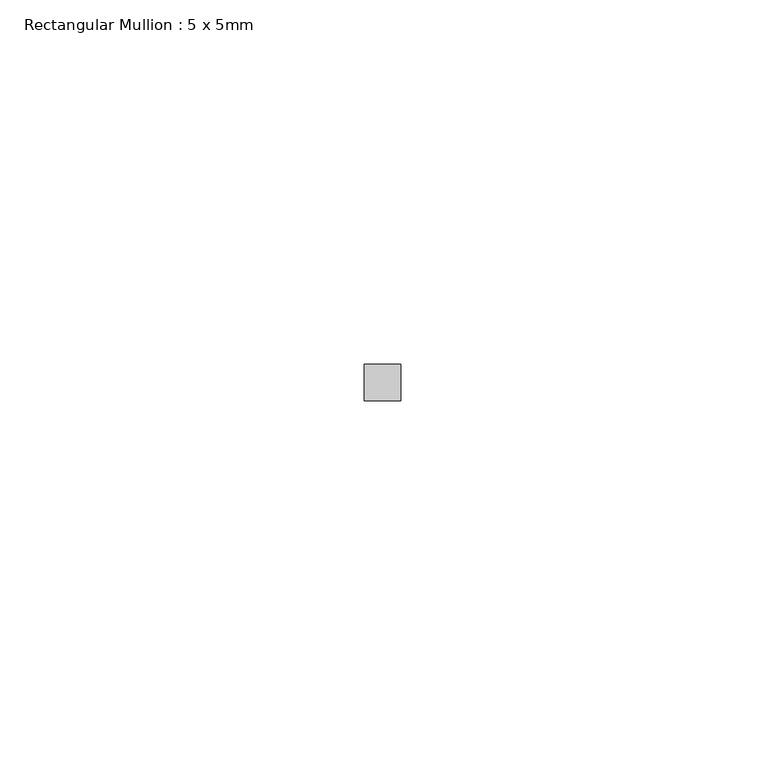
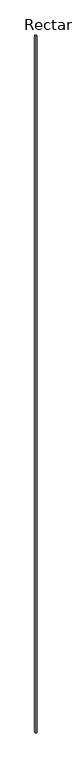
"""IFC4 building model written with IfcOpenShell, lengths in millimetres: member geometry, Rectangular Mullion : 5 x 5mm."""

import ifcopenshell
import ifcopenshell.guid

model = None  # the IFC model being written
_history = None  # IfcOwnerHistory: only IFC2X3 demands one
_inside = {}  # id of a spatial element -> (the spatial element, [elements in it])
_under = {}  # id of a project, library or spatial element -> (it, [spatial elements below it])
_declared = {}  # id of a project -> (the project, [libraries it declares])
_typed = {}  # id of a type object -> (the type object, [elements of that type])
_made_of = {}  # id of a material, layer set ... -> (it, [elements and type objects made of it])


def new_model(schema):
    """Start an empty IFC model of exactly this schema.

    Asked for "IFC4X3", IfcOpenShell would pick the latest addendum, in which some entities
    have other attributes; the version numbers below select the first issue.
    IFC2X3 requires an IfcOwnerHistory on every rooted entity: one is made here for all.
    """
    global model, _history
    if schema == "IFC4X3":
        model = ifcopenshell.file(schema_version=(4, 3, 0, 0))
    else:
        model = ifcopenshell.file(schema=schema)
    _inside.clear()
    _under.clear()
    _declared.clear()
    _typed.clear()
    _made_of.clear()
    _history = None
    if model.schema == "IFC2X3":
        org = make("IfcOrganization", Name="unknown")
        user = make(
            "IfcPersonAndOrganization",
            ThePerson=make("IfcPerson", FamilyName="unknown"),
            TheOrganization=org,
        )
        app = make(
            "IfcApplication",
            ApplicationDeveloper=org,
            Version="unknown",
            ApplicationFullName="unknown",
            ApplicationIdentifier="unknown",
        )
        _history = make(
            "IfcOwnerHistory",
            OwningUser=user,
            OwningApplication=app,
            ChangeAction="ADDED",
            CreationDate=0,
        )
    return model


def make(cls, **values):
    """One entity of the class cls with the attributes given. An attribute that is None is left unset."""
    return model.create_entity(
        cls, **{name: value for name, value in values.items() if value is not None}
    )


def rooted(cls, **values):
    """An entity with a GlobalId (a new one), such as an element, a storey or a relation."""
    return make(cls, GlobalId=ifcopenshell.guid.new(), OwnerHistory=_history, **values)


def si_unit(unit_type, name, prefix=None):
    """IfcSIUnit, for example si_unit("LENGTHUNIT", "METRE", prefix="MILLI")."""
    return make("IfcSIUnit", UnitType=unit_type, Prefix=prefix, Name=name)


def assignment(units):
    """IfcUnitAssignment: the units of a project."""
    return None if units is None else make("IfcUnitAssignment", Units=units)


def point(xyz):
    """IfcCartesianPoint."""
    return None if xyz is None else make("IfcCartesianPoint", Coordinates=xyz)


def direction(xyz):
    """IfcDirection."""
    return None if xyz is None else make("IfcDirection", DirectionRatios=xyz)


def frame(location, z_axis=None, x_axis=None):
    """IfcAxis2Placement3D, a coordinate frame: its origin and axes. An axis left out is left unset."""
    return make(
        "IfcAxis2Placement3D",
        Location=point(location),
        Axis=direction(z_axis),
        RefDirection=direction(x_axis),
    )


def origin():
    """The frame at (0, 0, 0) with its axes left unset."""
    return frame((0.0, 0.0, 0.0))


def place(relative_to, where):
    """IfcLocalPlacement: puts the frame where relative to a parent placement (None: the world)."""
    return make(
        "IfcLocalPlacement", PlacementRelTo=relative_to, RelativePlacement=where
    )


def context(
    kind, dimensions, precision=None, world=None, true_north=None, identifier=None
):
    """IfcGeometricRepresentationContext, for example the 3D "Model" context."""
    return make(
        "IfcGeometricRepresentationContext",
        ContextIdentifier=identifier,
        ContextType=kind,
        CoordinateSpaceDimension=dimensions,
        Precision=precision,
        WorldCoordinateSystem=world,
        TrueNorth=true_north,
    )


def project(units=None, contexts=None):
    """IfcProject with its units and contexts."""
    return rooted(
        "IfcProject",
        Name="project",
        RepresentationContexts=contexts,
        UnitsInContext=assignment(units),
    )


def spatial(cls, under=None, at=None, **own):
    """A site, building, storey or space (cls), placed at a placement, below another one or the project."""
    s = rooted(cls, ObjectPlacement=at, **own)
    if under is not None:
        _under.setdefault(under.id(), (under, []))[1].append(s)
    return s


def polyline(points):
    """IfcPolyline through the points."""
    return make("IfcPolyline", Points=[point(p) for p in points])


def outline(outer, holes=None, kind="AREA"):
    """IfcArbitraryClosedProfileDef: a profile drawn as a closed curve; with holes, ...WithVoids."""
    if holes is None:
        return make("IfcArbitraryClosedProfileDef", ProfileType=kind, OuterCurve=outer)
    return make(
        "IfcArbitraryProfileDefWithVoids",
        ProfileType=kind,
        OuterCurve=outer,
        InnerCurves=holes,
    )


def extrude(swept, where, along, depth):
    """IfcExtrudedAreaSolid: the profile swept, set in the frame where, extruded along a direction by depth."""
    return make(
        "IfcExtrudedAreaSolid",
        SweptArea=swept,
        Position=where,
        ExtrudedDirection=direction(along),
        Depth=depth,
    )


def shape(context_of_items, identifier, shape_type, items):
    """IfcShapeRepresentation: the items that make up one representation, for example the "Body"."""
    return make(
        "IfcShapeRepresentation",
        ContextOfItems=context_of_items,
        RepresentationIdentifier=identifier,
        RepresentationType=shape_type,
        Items=items,
    )


def source(mapping_origin, context_of_items, identifier, shape_type, items):
    """IfcRepresentationMap: a shape defined once, which mapped items show again and again."""
    return make(
        "IfcRepresentationMap",
        MappingOrigin=mapping_origin,
        MappedRepresentation=shape(context_of_items, identifier, shape_type, items),
    )


def transform(
    local_origin,
    x_axis=None,
    y_axis=None,
    z_axis=None,
    scale=None,
    scale2=None,
    scale3=None,
    uniform=True,
):
    """IfcCartesianTransformationOperator3D, or its non-uniform kind. x_axis, y_axis, z_axis: its Axis1, 2, 3."""
    if uniform:
        return make(
            "IfcCartesianTransformationOperator3D",
            Axis1=direction(x_axis),
            Axis2=direction(y_axis),
            LocalOrigin=point(local_origin),
            Scale=scale,
            Axis3=direction(z_axis),
        )
    return make(
        "IfcCartesianTransformationOperator3DnonUniform",
        Axis1=direction(x_axis),
        Axis2=direction(y_axis),
        LocalOrigin=point(local_origin),
        Scale=scale,
        Axis3=direction(z_axis),
        Scale2=scale2,
        Scale3=scale3,
    )


def mapped(mapping_source, mapping_target):
    """IfcMappedItem: shows the shape of a source again, moved by a transform."""
    return make(
        "IfcMappedItem", MappingSource=mapping_source, MappingTarget=mapping_target
    )


def made_of(thing, what):
    """Note that an element or type object is made of a material, layer set ...; save() writes the relation."""
    if what is not None:
        _made_of.setdefault(what.id(), (what, []))[1].append(thing)
    return thing


def element(
    cls,
    number,
    at=None,
    inside=None,
    cuts=None,
    type_object=None,
    material=None,
    context=None,
    identifier="Body",
    shape_type=None,
    held_by="IfcProductDefinitionShape",
    body=None,
    shapes=None,
    **own,
):
    """One element of the class cls, such as IfcWall. Its Tag is "e" and its number.

    at: its placement. inside: the storey or other place that contains it. cuts: it is an
    opening in that element (IfcRelVoidsElement). A single representation is given by context,
    identifier, shape_type and body (its items); several are given by shapes. held_by: the class
    of the entity that holds the representations. save() writes the other relations.
    """
    e = rooted(cls, Tag="e%d" % number, ObjectPlacement=at, **own)
    if body is not None:
        shapes = [shape(context, identifier, shape_type, body)]
    if shapes is not None:
        e.Representation = make(held_by, Representations=shapes)
    if inside is not None:
        _inside.setdefault(inside.id(), (inside, []))[1].append(e)
    if cuts is not None:
        rooted(
            "IfcRelVoidsElement", RelatingBuildingElement=cuts, RelatedOpeningElement=e
        )
    if type_object is not None:
        _typed.setdefault(type_object.id(), (type_object, []))[1].append(e)
    return made_of(e, material)


def aggregate(whole, parts):
    """IfcRelAggregates: a whole, such as a stair, and the parts it consists of."""
    return rooted("IfcRelAggregates", RelatingObject=whole, RelatedObjects=parts)


def save(model, path):
    """Write the relations noted so far, then the file.

    IfcRelAggregates (storeys below a building ...), IfcRelContainedInSpatialStructure (elements
    in a storey), IfcRelDefinesByType, IfcRelAssociatesMaterial and IfcRelDeclares: one each for
    every whole, place, type object, material and project.
    """
    for whole, parts in _under.values():
        aggregate(whole, parts)
    for where, things in _inside.values():
        rooted(
            "IfcRelContainedInSpatialStructure",
            RelatedElements=things,
            RelatingStructure=where,
        )
    for kind, things in _typed.values():
        rooted("IfcRelDefinesByType", RelatedObjects=things, RelatingType=kind)
    for what, things in _made_of.values():
        rooted("IfcRelAssociatesMaterial", RelatedObjects=things, RelatingMaterial=what)
    for by, libraries in _declared.values():
        rooted("IfcRelDeclares", RelatingContext=by, RelatedDefinitions=libraries)
    model.write(path)


def rectangular_mullion_5_x_5mm_aac041f1(model_context):
    return source(origin(), model_context, "Body", "SweptSolid", [
        extrude(outline(polyline([(0.0, 2.5), (0.0, -2.5), (-5.0, -2.5), (-5.0, 2.5), (0.0, 2.5)])), frame((0.0, 0.0, -2390.0), z_axis=(0.0, 0.0, 1.0), x_axis=(1.0, 0.0, 0.0)), (0.0, 0.0, 1.0), 2390.0),
    ])


if __name__ == "__main__":
    model = new_model("IFC4")
    model_context = context("Model", 3, world=origin())
    ifc_project = project(units=[si_unit("LENGTHUNIT", "METRE", prefix="MILLI")], contexts=[model_context])
    site = spatial("IfcSite", under=ifc_project)
    building = spatial("IfcBuilding", under=site)
    placement = place(None, origin())
    rectangular_mullion_5_x_5mm_shape = rectangular_mullion_5_x_5mm_aac041f1(model_context)
    element("IfcMember", 1, ObjectType="Rectangular Mullion : 5 x 5mm", at=placement, inside=building, context=model_context, shape_type="MappedRepresentation", body=[
        mapped(rectangular_mullion_5_x_5mm_shape, transform((0.0, 0.0, 0.0), x_axis=(1.0, 0.0, 0.0), y_axis=(0.0, 1.0, 0.0), z_axis=(0.0, 0.0, 1.0))),
    ])
    save(model, "model.ifc")
